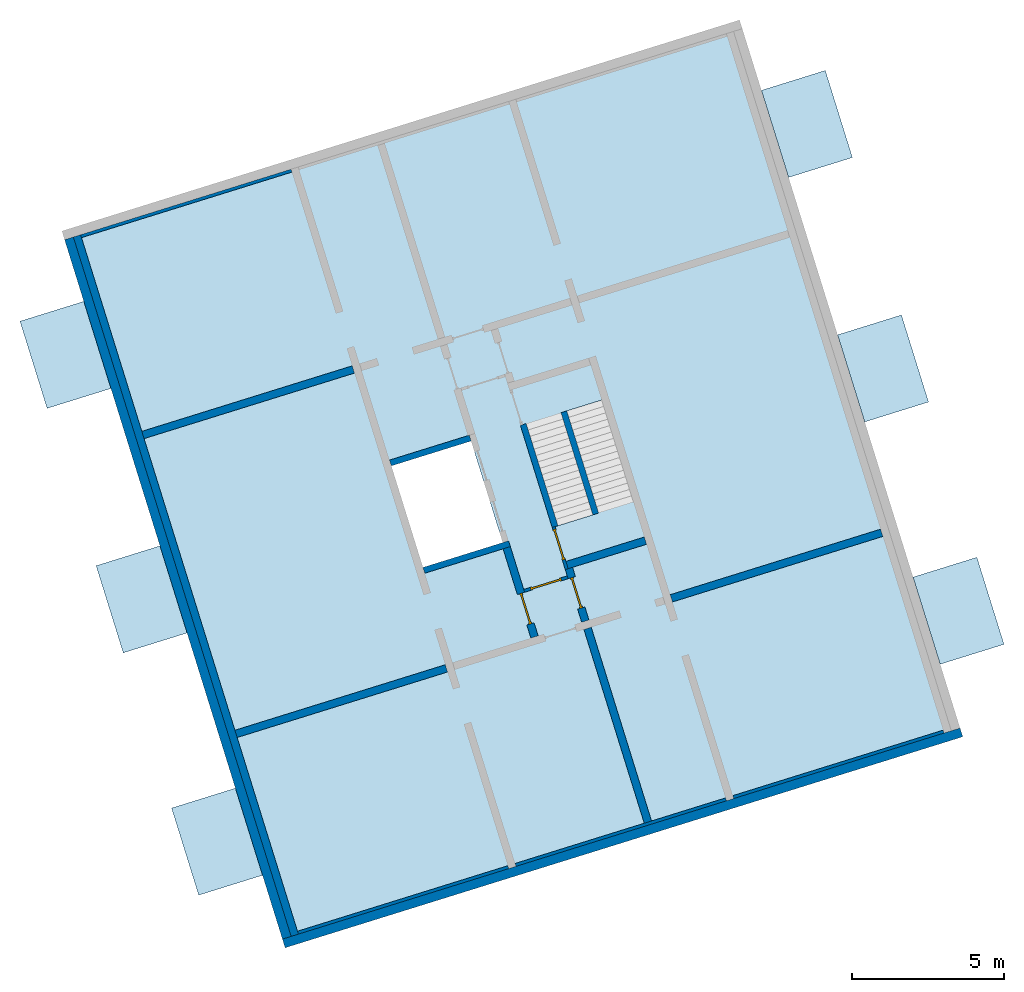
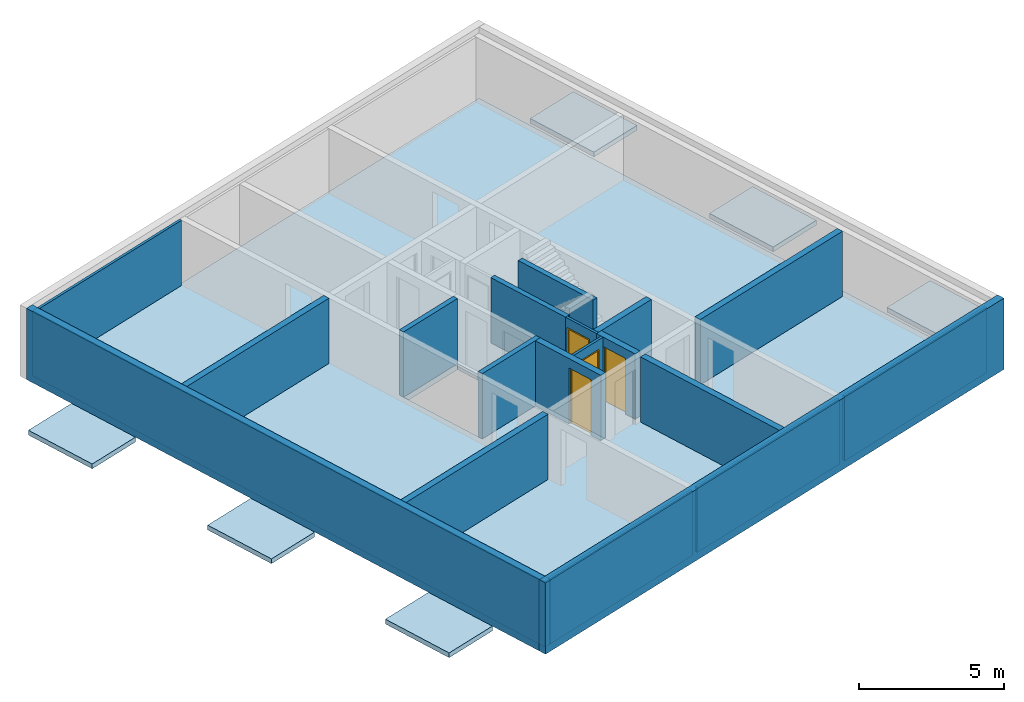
# One storey, part 1 of 4: 20 walls, 7 slabs, 4 doors, 6 openings.
"""IFC4 building model written with IfcOpenShell, lengths in metres."""

import ifcopenshell
import ifcopenshell.guid

model = None  # the IFC model being written
_history = None  # IfcOwnerHistory: only IFC2X3 demands one
_inside = {}  # id of a spatial element -> (the spatial element, [elements in it])
_under = {}  # id of a project, library or spatial element -> (it, [spatial elements below it])
_declared = {}  # id of a project -> (the project, [libraries it declares])
_typed = {}  # id of a type object -> (the type object, [elements of that type])
_made_of = {}  # id of a material, layer set ... -> (it, [elements and type objects made of it])


def new_model(schema):
    """Start an empty IFC model of exactly this schema.

    Asked for "IFC4X3", IfcOpenShell would pick the latest addendum, in which some entities
    have other attributes; the version numbers below select the first issue.
    IFC2X3 requires an IfcOwnerHistory on every rooted entity: one is made here for all.
    """
    global model, _history
    if schema == "IFC4X3":
        model = ifcopenshell.file(schema_version=(4, 3, 0, 0))
    else:
        model = ifcopenshell.file(schema=schema)
    _inside.clear()
    _under.clear()
    _declared.clear()
    _typed.clear()
    _made_of.clear()
    _history = None
    if model.schema == "IFC2X3":
        org = make("IfcOrganization", Name="unknown")
        user = make(
            "IfcPersonAndOrganization",
            ThePerson=make("IfcPerson", FamilyName="unknown"),
            TheOrganization=org,
        )
        app = make(
            "IfcApplication",
            ApplicationDeveloper=org,
            Version="unknown",
            ApplicationFullName="unknown",
            ApplicationIdentifier="unknown",
        )
        _history = make(
            "IfcOwnerHistory",
            OwningUser=user,
            OwningApplication=app,
            ChangeAction="ADDED",
            CreationDate=0,
        )
    return model


def make(cls, **values):
    """One entity of the class cls with the attributes given. An attribute that is None is left unset."""
    return model.create_entity(
        cls, **{name: value for name, value in values.items() if value is not None}
    )


def entity(cls, *values):
    """Any entity or typed value of the class cls, its attributes in the order of the schema. None: left unset."""
    e = model.create_entity(cls)
    for i, value in enumerate(values):
        if value is not None:
            e[i] = value
    return e


def rooted(cls, **values):
    """An entity with a GlobalId (a new one), such as an element, a storey or a relation."""
    return make(cls, GlobalId=ifcopenshell.guid.new(), OwnerHistory=_history, **values)


def si_unit(unit_type, name, prefix=None):
    """IfcSIUnit, for example si_unit("LENGTHUNIT", "METRE", prefix="MILLI")."""
    return make("IfcSIUnit", UnitType=unit_type, Prefix=prefix, Name=name)


def converted_unit(unit_type, name, factor, base, dimensions=None, offset=None):
    """IfcConversionBasedUnit, such as the inch: factor (a typed value) times the base unit."""
    return make(
        "IfcConversionBasedUnit"
        if offset is None
        else "IfcConversionBasedUnitWithOffset",
        ConversionOffset=offset,
        Dimensions=None
        if dimensions is None
        else entity("IfcDimensionalExponents", *dimensions),
        UnitType=unit_type,
        Name=name,
        ConversionFactor=make(
            "IfcMeasureWithUnit", ValueComponent=factor, UnitComponent=base
        ),
    )


def assignment(units):
    """IfcUnitAssignment: the units of a project."""
    return None if units is None else make("IfcUnitAssignment", Units=units)


def point(xyz):
    """IfcCartesianPoint."""
    return None if xyz is None else make("IfcCartesianPoint", Coordinates=xyz)


def direction(xyz):
    """IfcDirection."""
    return None if xyz is None else make("IfcDirection", DirectionRatios=xyz)


def frame(location, z_axis=None, x_axis=None):
    """IfcAxis2Placement3D, a coordinate frame: its origin and axes. An axis left out is left unset."""
    return make(
        "IfcAxis2Placement3D",
        Location=point(location),
        Axis=direction(z_axis),
        RefDirection=direction(x_axis),
    )


def origin():
    """The frame at (0, 0, 0) with its axes left unset."""
    return frame((0.0, 0.0, 0.0))


def place(relative_to, where):
    """IfcLocalPlacement: puts the frame where relative to a parent placement (None: the world)."""
    return make(
        "IfcLocalPlacement", PlacementRelTo=relative_to, RelativePlacement=where
    )


def context(
    kind, dimensions, precision=None, world=None, true_north=None, identifier=None
):
    """IfcGeometricRepresentationContext, for example the 3D "Model" context."""
    return make(
        "IfcGeometricRepresentationContext",
        ContextIdentifier=identifier,
        ContextType=kind,
        CoordinateSpaceDimension=dimensions,
        Precision=precision,
        WorldCoordinateSystem=world,
        TrueNorth=true_north,
    )


def subcontext(parent, identifier, kind, view, scale=None):
    """IfcGeometricRepresentationSubContext, for example "Body" below "Model"."""
    return make(
        "IfcGeometricRepresentationSubContext",
        ContextIdentifier=identifier,
        ContextType=kind,
        ParentContext=parent,
        TargetScale=scale,
        TargetView=view,
    )


def project(units=None, contexts=None):
    """IfcProject with its units and contexts."""
    return rooted(
        "IfcProject",
        Name="project",
        RepresentationContexts=contexts,
        UnitsInContext=assignment(units),
    )


def spatial(cls, under=None, at=None, **own):
    """A site, building, storey or space (cls), placed at a placement, below another one or the project."""
    s = rooted(cls, ObjectPlacement=at, **own)
    if under is not None:
        _under.setdefault(under.id(), (under, []))[1].append(s)
    return s


def point_list(points):
    """IfcCartesianPointList2D or 3D."""
    cls = (
        "IfcCartesianPointList2D" if len(points[0]) == 2 else "IfcCartesianPointList3D"
    )
    return make(cls, CoordList=points)


def indexed_curve(points, segments=None, self_intersect=None):
    """IfcIndexedPolyCurve: lines and arcs through numbered points (the first is 1)."""
    return make(
        "IfcIndexedPolyCurve",
        Points=point_list(points),
        Segments=segments,
        SelfIntersect=self_intersect,
    )


def outline(outer, holes=None, kind="AREA"):
    """IfcArbitraryClosedProfileDef: a profile drawn as a closed curve; with holes, ...WithVoids."""
    if holes is None:
        return make("IfcArbitraryClosedProfileDef", ProfileType=kind, OuterCurve=outer)
    return make(
        "IfcArbitraryProfileDefWithVoids",
        ProfileType=kind,
        OuterCurve=outer,
        InnerCurves=holes,
    )


def extrude(swept, where, along, depth):
    """IfcExtrudedAreaSolid: the profile swept, set in the frame where, extruded along a direction by depth."""
    return make(
        "IfcExtrudedAreaSolid",
        SweptArea=swept,
        Position=where,
        ExtrudedDirection=direction(along),
        Depth=depth,
    )


def polygons(points, faces, closed=None, point_numbers=None):
    """IfcPolygonalFaceSet: a face is its outer loop, then its inner loops; points numbered from 1."""
    made = []
    for loops in faces:
        if len(loops) == 1:
            made.append(make("IfcIndexedPolygonalFace", CoordIndex=loops[0]))
        else:
            made.append(
                make(
                    "IfcIndexedPolygonalFaceWithVoids",
                    CoordIndex=loops[0],
                    InnerCoordIndices=loops[1:],
                )
            )
    return make(
        "IfcPolygonalFaceSet",
        Coordinates=point_list(points),
        Closed=closed,
        Faces=made,
        PnIndex=point_numbers,
    )


def shape(context_of_items, identifier, shape_type, items):
    """IfcShapeRepresentation: the items that make up one representation, for example the "Body"."""
    return make(
        "IfcShapeRepresentation",
        ContextOfItems=context_of_items,
        RepresentationIdentifier=identifier,
        RepresentationType=shape_type,
        Items=items,
    )


def source(mapping_origin, context_of_items, identifier, shape_type, items):
    """IfcRepresentationMap: a shape defined once, which mapped items show again and again."""
    return make(
        "IfcRepresentationMap",
        MappingOrigin=mapping_origin,
        MappedRepresentation=shape(context_of_items, identifier, shape_type, items),
    )


def transform(
    local_origin,
    x_axis=None,
    y_axis=None,
    z_axis=None,
    scale=None,
    scale2=None,
    scale3=None,
    uniform=True,
):
    """IfcCartesianTransformationOperator3D, or its non-uniform kind. x_axis, y_axis, z_axis: its Axis1, 2, 3."""
    if uniform:
        return make(
            "IfcCartesianTransformationOperator3D",
            Axis1=direction(x_axis),
            Axis2=direction(y_axis),
            LocalOrigin=point(local_origin),
            Scale=scale,
            Axis3=direction(z_axis),
        )
    return make(
        "IfcCartesianTransformationOperator3DnonUniform",
        Axis1=direction(x_axis),
        Axis2=direction(y_axis),
        LocalOrigin=point(local_origin),
        Scale=scale,
        Axis3=direction(z_axis),
        Scale2=scale2,
        Scale3=scale3,
    )


def mapped(mapping_source, mapping_target):
    """IfcMappedItem: shows the shape of a source again, moved by a transform."""
    return make(
        "IfcMappedItem", MappingSource=mapping_source, MappingTarget=mapping_target
    )


def material(Name=None, Category=None):
    """IfcMaterial."""
    return make("IfcMaterial", Name=Name, Category=Category)


def constituent(of_material, Name=None, Category=None, fraction=None):
    """IfcMaterialConstituent: one of the materials an element consists of."""
    return make(
        "IfcMaterialConstituent",
        Name=Name,
        Material=of_material,
        Fraction=fraction,
        Category=Category,
    )


def constituent_set(constituents=None, Name=None):
    """IfcMaterialConstituentSet."""
    return make(
        "IfcMaterialConstituentSet", Name=Name, MaterialConstituents=constituents
    )


def made_of(thing, what):
    """Note that an element or type object is made of a material, layer set ...; save() writes the relation."""
    if what is not None:
        _made_of.setdefault(what.id(), (what, []))[1].append(thing)
    return thing


def type_object(cls, material=None, **own):
    """A type object (cls), such as IfcWallType, which elements share."""
    return made_of(rooted(cls, **own), material)


def type_shapes(of_type, sources):
    """Give a type object the sources (RepresentationMaps) that its elements show as mapped items."""
    of_type.RepresentationMaps = sources


def element(
    cls,
    number,
    at=None,
    inside=None,
    cuts=None,
    type_object=None,
    material=None,
    context=None,
    identifier="Body",
    shape_type=None,
    held_by="IfcProductDefinitionShape",
    body=None,
    shapes=None,
    **own,
):
    """One element of the class cls, such as IfcWall. Its Tag is "e" and its number.

    at: its placement. inside: the storey or other place that contains it. cuts: it is an
    opening in that element (IfcRelVoidsElement). A single representation is given by context,
    identifier, shape_type and body (its items); several are given by shapes. held_by: the class
    of the entity that holds the representations. save() writes the other relations.
    """
    e = rooted(cls, Tag="e%d" % number, ObjectPlacement=at, **own)
    if body is not None:
        shapes = [shape(context, identifier, shape_type, body)]
    if shapes is not None:
        e.Representation = make(held_by, Representations=shapes)
    if inside is not None:
        _inside.setdefault(inside.id(), (inside, []))[1].append(e)
    if cuts is not None:
        rooted(
            "IfcRelVoidsElement", RelatingBuildingElement=cuts, RelatedOpeningElement=e
        )
    if type_object is not None:
        _typed.setdefault(type_object.id(), (type_object, []))[1].append(e)
    return made_of(e, material)


def fill(opening, filler):
    """IfcRelFillsElement: the door or window that sits in an opening."""
    return rooted(
        "IfcRelFillsElement",
        RelatingOpeningElement=opening,
        RelatedBuildingElement=filler,
    )


def aggregate(whole, parts):
    """IfcRelAggregates: a whole, such as a stair, and the parts it consists of."""
    return rooted("IfcRelAggregates", RelatingObject=whole, RelatedObjects=parts)


def save(model, path):
    """Write the relations noted so far, then the file.

    IfcRelAggregates (storeys below a building ...), IfcRelContainedInSpatialStructure (elements
    in a storey), IfcRelDefinesByType, IfcRelAssociatesMaterial and IfcRelDeclares: one each for
    every whole, place, type object, material and project.
    """
    for whole, parts in _under.values():
        aggregate(whole, parts)
    for where, things in _inside.values():
        rooted(
            "IfcRelContainedInSpatialStructure",
            RelatedElements=things,
            RelatingStructure=where,
        )
    for kind, things in _typed.values():
        rooted("IfcRelDefinesByType", RelatedObjects=things, RelatingType=kind)
    for what, things in _made_of.values():
        rooted("IfcRelAssociatesMaterial", RelatedObjects=things, RelatingMaterial=what)
    for by, libraries in _declared.values():
        rooted("IfcRelDeclares", RelatingContext=by, RelatedDefinitions=libraries)
    model.write(path)


model = new_model("IFC4")

# Units and contexts
model_context = context("Model", 3, precision=1e-05, world=origin(), true_north=direction((6.12323399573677e-17, 1.0)))
body_context = subcontext(model_context, "Body", "Model", "MODEL_VIEW")
ifc_project = project(units=[si_unit("LENGTHUNIT", "METRE"), si_unit("AREAUNIT", "SQUARE_METRE"), si_unit("VOLUMEUNIT", "CUBIC_METRE"), converted_unit("PLANEANGLEUNIT", "DEGREE", entity("IfcPlaneAngleMeasure", 0.0174532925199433), si_unit("PLANEANGLEUNIT", "RADIAN"), dimensions=[0, 0, 0, 0, 0, 0, 0])], contexts=[model_context])

# Site, building, storey
site_placement = place(None, frame((13.1347999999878, 11.9886000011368, 0.0), z_axis=(0.0, 0.0, 1.0), x_axis=(0.954770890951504, 0.297342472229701, 0.0)))
site = spatial("IfcSite", under=ifc_project, at=site_placement, Name="Schiehaven", CompositionType="ELEMENT")
building_placement = place(site_placement, origin())
building = spatial("IfcBuilding", under=site, at=building_placement, Name="VORM huis", CompositionType="ELEMENT")
storey_placement = place(building_placement, frame((0.0, 0.0, 21.9)))
storey = spatial("IfcBuildingStorey", under=building, at=storey_placement, Name="07 zevende verdieping", CompositionType="ELEMENT", Elevation=21.9)

# Slab, openings
ifc_material_1 = material(Name="beton_gewapend_ihw", Category="Miscellaneous")
slab_type_1 = type_object("IfcSlabType", Name="Floor:28_FL_skelet_vloer 250mm", PredefinedType="FLOOR", material=ifc_material_1)
slab_1_placement = place(storey_placement, origin())
slab_1 = element("IfcSlab", 1, at=slab_1_placement, inside=storey, type_object=slab_type_1, material=ifc_material_1, Name="Constructieve vloer", ObjectType="Vloer", PredefinedType="FLOOR", context=body_context, shape_type="SweptSolid", body=[
    extrude(outline(indexed_curve([(-12.05, -11.375), (12.05, -11.375), (12.05, 11.375), (-12.05, 11.375), (-12.05, -11.375)], self_intersect=False), holes=[indexed_curve([(-1.75000000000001, -3.62500000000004), (-1.75000000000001, -0.875000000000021), (1.74999999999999, -0.875000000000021), (1.74999999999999, -3.62500000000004), (-1.75000000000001, -3.62500000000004)], self_intersect=False), indexed_curve([(1.76, 2.22499999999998), (1.76, 1.02499999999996), (-1.54, 1.02499999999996), (-1.54, 2.22499999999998), (1.76, 2.22499999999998)], self_intersect=False), indexed_curve([(-1.75999999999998, 3.62499999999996), (1.54, 3.62499999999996), (1.54, 2.42499999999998), (-1.75999999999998, 2.42499999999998), (-1.75999999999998, 3.62499999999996)], self_intersect=False)]), frame((16.2500000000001, 17.05, -0.249999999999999), z_axis=(0.0, 0.0, 1.0), x_axis=(0.0, -1.0, 0.0)), (0.0, 0.0, 1.0), 0.249999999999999),
])
opening_1_placement = place(slab_1_placement, origin())
element("IfcOpeningElement", 2, at=opening_1_placement, cuts=slab_1, Name="Constructieve vloer", PredefinedType="OPENING", context=body_context, shape_type="SweptSolid", body=[
    extrude(outline(indexed_curve([(-1.74999999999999, -1.37500000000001), (1.75, -1.37500000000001), (1.75, 1.37500000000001), (-1.75, 1.37500000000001), (-1.74999999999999, -1.37500000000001)], self_intersect=False)), frame((14.0, 17.05, -0.249999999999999), z_axis=(0.0, 0.0, 1.0), x_axis=(0.0, -1.0, 0.0)), (0.0, 0.0, 1.0), 0.249999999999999),
])
opening_2_placement = place(slab_1_placement, origin())
element("IfcOpeningElement", 3, at=opening_2_placement, cuts=slab_1, Name="Constructieve vloer", PredefinedType="OPENING", context=body_context, shape_type="SweptSolid", body=[
    extrude(outline(indexed_curve([(-1.65, -0.600000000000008), (1.65, -0.600000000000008), (1.65, 0.600000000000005), (-1.65, 0.600000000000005), (-1.65, -0.600000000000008)], self_intersect=False)), frame((17.8750000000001, 16.94, -0.249999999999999), z_axis=(0.0, 0.0, 1.0), x_axis=(0.0, 1.0, 0.0)), (0.0, 0.0, 1.0), 0.249999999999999),
])

# Slabs
ifc_material_2 = material(Name="beton_gewapend_prefab-element", Category="Miscellaneous")
slab_type_2 = type_object("IfcSlabType", Name="Floor:23_FL_skelet_balkon 200mm", PredefinedType="FLOOR", material=ifc_material_2)
slab_2_placement = place(storey_placement, origin())
element("IfcSlab", 4, at=slab_2_placement, inside=storey, type_object=slab_type_2, material=ifc_material_2, Name="Balkonvloer", ObjectType="Vloer", PredefinedType="FLOOR", context=body_context, shape_type="SweptSolid", body=[
    extrude(outline(indexed_curve([(-1.5, -1.1), (1.5, -1.1), (1.5, 1.09999999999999), (-1.5, 1.09999999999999), (-1.5, -1.1)], self_intersect=False)), frame((29.0250000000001, 25.475, 0.0), z_axis=(0.0, 0.0, -1.0), x_axis=(0.0, 1.0, 0.0)), (0.0, 0.0, 1.0), 0.199999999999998),
])
slab_3_placement = place(storey_placement, origin())
element("IfcSlab", 5, at=slab_3_placement, inside=storey, type_object=slab_type_2, material=ifc_material_2, Name="Balkonvloer", ObjectType="Vloer", PredefinedType="FLOOR", context=body_context, shape_type="SweptSolid", body=[
    extrude(outline(indexed_curve([(-1.5, -1.1), (1.5, -1.1), (1.5, 1.1), (-1.5, 1.1), (-1.5, -1.1)], self_intersect=False)), frame((29.0250000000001, 8.70000000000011, 0.0), z_axis=(0.0, 0.0, -1.0), x_axis=(0.0, 1.0, 0.0)), (0.0, 0.0, 1.0), 0.199999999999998),
])
slab_4_placement = place(storey_placement, origin())
element("IfcSlab", 6, at=slab_4_placement, inside=storey, type_object=slab_type_2, material=ifc_material_2, Name="Balkonvloer", ObjectType="Vloer", PredefinedType="FLOOR", context=body_context, shape_type="SweptSolid", body=[
    extrude(outline(indexed_curve([(-1.5, -1.1), (1.5, -1.1), (1.5, 1.1), (-1.5, 1.1), (-1.5, -1.1)], self_intersect=False)), frame((29.0250000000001, 17.05, 0.0), z_axis=(0.0, 0.0, -1.0), x_axis=(0.0, 1.0, 0.0)), (0.0, 0.0, 1.0), 0.199999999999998),
])
slab_5_placement = place(storey_placement, origin())
element("IfcSlab", 7, at=slab_5_placement, inside=storey, type_object=slab_type_2, material=ifc_material_2, Name="Balkonvloer", ObjectType="Vloer", PredefinedType="FLOOR", context=body_context, shape_type="SweptSolid", body=[
    extrude(outline(indexed_curve([(-1.49999999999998, -1.1), (1.50000000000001, -1.1), (1.49999999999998, 1.1), (-1.50000000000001, 1.1), (-1.49999999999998, -1.1)], self_intersect=False)), frame((3.47500000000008, 25.4750000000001, 0.0), z_axis=(0.0, 0.0, -1.0), x_axis=(0.0, 1.0, 0.0)), (0.0, 0.0, 1.0), 0.199999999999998),
])
slab_6_placement = place(storey_placement, origin())
element("IfcSlab", 8, at=slab_6_placement, inside=storey, type_object=slab_type_2, material=ifc_material_2, Name="Balkonvloer", ObjectType="Vloer", PredefinedType="FLOOR", context=body_context, shape_type="SweptSolid", body=[
    extrude(outline(indexed_curve([(-1.49999999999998, -1.1), (1.50000000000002, -1.1), (1.49999999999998, 1.1), (-1.50000000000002, 1.1), (-1.49999999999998, -1.1)], self_intersect=False)), frame((3.47499999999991, 8.70000000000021, 0.0), z_axis=(0.0, 0.0, -1.0), x_axis=(0.0, 1.0, 0.0)), (0.0, 0.0, 1.0), 0.199999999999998),
])
slab_7_placement = place(storey_placement, origin())
element("IfcSlab", 9, at=slab_7_placement, inside=storey, type_object=slab_type_2, material=ifc_material_2, Name="Balkonvloer", ObjectType="Vloer", PredefinedType="FLOOR", context=body_context, shape_type="SweptSolid", body=[
    extrude(outline(indexed_curve([(-1.49999999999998, -1.1), (1.50000000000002, -1.1), (1.49999999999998, 1.1), (-1.50000000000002, 1.1), (-1.49999999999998, -1.1)], self_intersect=False)), frame((3.47499999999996, 17.0500000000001, 0.0), z_axis=(0.0, 0.0, -1.0), x_axis=(0.0, 1.0, 0.0)), (0.0, 0.0, 1.0), 0.199999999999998),
])

# Walls
wall_type_1 = type_object("IfcWallType", Name="Basic Wall:28_WA_skelet_wand 250mm_gen", PredefinedType="STANDARD")
wall_1_placement = place(storey_placement, frame((5.0, 5.0, 0.0), z_axis=(0.0, 0.0, 1.0), x_axis=(0.0, 1.0, 0.0)))
element("IfcWall", 10, at=wall_1_placement, inside=storey, type_object=wall_type_1, material=ifc_material_1, Name="Constructieve wand", ObjectType="Wand", PredefinedType="NOTDEFINED", context=body_context, shape_type="SweptSolid", body=[
    extrude(outline(indexed_curve([(24.1, 0.125), (4.21737840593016e-16, 0.125), (-4.21737840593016e-16, -0.125), (24.1, -0.125), (24.1, 0.125)], self_intersect=False)), origin(), (0.0, 0.0, 1.0), 2.75),
])
ifc_material_3 = material(Name="ntb_ntb_ntb", Category="Miscellaneous")
wall_type_2 = type_object("IfcWallType", Name="Basic Wall:21_WA_gevel_binnenspouwwand 100mm_gen", PredefinedType="STANDARD")
wall_2_placement = place(storey_placement, frame((5.12500000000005, 5.05000000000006, 0.0)))
element("IfcWall", 11, at=wall_2_placement, inside=storey, type_object=wall_type_2, material=ifc_material_3, Name="Binnenspouwblad", ObjectType="Wand", PredefinedType="NOTDEFINED", context=body_context, shape_type="SweptSolid", body=[
    extrude(outline(indexed_curve([(7.24999999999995, 0.0500000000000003), (-1.84844170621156e-16, 0.0500000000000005), (1.84844170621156e-16, -0.0500000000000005), (7.24999999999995, -0.0500000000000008), (7.24999999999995, 0.0500000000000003)], self_intersect=False)), origin(), (0.0, 0.0, 1.0), 2.75),
])
wall_3_placement = place(storey_placement, frame((19.875, 5.04999999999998, 0.0), z_axis=(0.0, 0.0, 1.0), x_axis=(-1.0, 0.0, 0.0)))
element("IfcWall", 12, at=wall_3_placement, inside=storey, type_object=wall_type_2, material=ifc_material_3, Name="Binnenspouwblad", ObjectType="Wand", PredefinedType="NOTDEFINED", context=body_context, shape_type="SweptSolid", body=[
    extrude(outline(indexed_curve([(7.24999999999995, 0.050000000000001), (-3.3903742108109e-16, 0.0500000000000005), (3.3903742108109e-16, -0.0500000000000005), (7.24999999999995, -0.0500000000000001), (7.24999999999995, 0.050000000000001)], self_intersect=False)), origin(), (0.0, 0.0, 1.0), 2.75),
])
wall_4_placement = place(storey_placement, frame((20.1250000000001, 5.04999999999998, 0.0)))
element("IfcWall", 13, at=wall_4_placement, inside=storey, type_object=wall_type_2, material=ifc_material_3, Name="Binnenspouwblad", ObjectType="Wand", PredefinedType="NOTDEFINED", context=body_context, shape_type="SweptSolid", body=[
    extrude(outline(indexed_curve([(7.24999999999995, 0.0499999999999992), (-1.84844170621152e-16, 0.0499999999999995), (1.84844170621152e-16, -0.0499999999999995), (7.24999999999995, -0.0499999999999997), (7.24999999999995, 0.0499999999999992)], self_intersect=False)), origin(), (0.0, 0.0, 1.0), 2.75),
])
wall_5_placement = place(storey_placement, frame((5.12500000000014, 29.0500000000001, 0.0)))
element("IfcWall", 14, at=wall_5_placement, inside=storey, type_object=wall_type_2, material=ifc_material_3, Name="Binnenspouwblad", ObjectType="Wand", PredefinedType="NOTDEFINED", context=body_context, shape_type="SweptSolid", body=[
    extrude(outline(indexed_curve([(7.24999999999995, 0.0500000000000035), (-1.62265042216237e-16, 0.0500000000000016), (1.62265042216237e-16, -0.0500000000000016), (7.24999999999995, -0.0499999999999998), (7.24999999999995, 0.0500000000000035)], self_intersect=False)), origin(), (0.0, 0.0, 1.0), 2.75),
])
wall_type_3 = type_object("IfcWallType", Name="Basic Wall: 300mm_gen", PredefinedType="STANDARD")
wall_6_placement = place(storey_placement, frame((4.72500000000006, 5.0, 0.0), z_axis=(0.0, 0.0, 1.0), x_axis=(0.0, 1.0, 0.0)))
element("IfcWall", 15, at=wall_6_placement, inside=storey, type_object=wall_type_3, material=ifc_material_3, Name="Gevelwand", ObjectType="Wand", PredefinedType="NOTDEFINED", context=body_context, shape_type="SweptSolid", body=[
    extrude(outline(indexed_curve([(24.1, 0.15), (-3.8304924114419e-16, 0.15), (-6.99817888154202e-16, -0.15), (24.1, -0.15), (24.1, 0.15)], self_intersect=False)), origin(), (0.0, 0.0, 1.0), 3.0),
])
wall_7_placement = place(storey_placement, frame((27.9250000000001, 4.85000000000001, 0.0), z_axis=(0.0, 0.0, 1.0), x_axis=(-1.0, 0.0, 0.0)))
element("IfcWall", 16, at=wall_7_placement, inside=storey, type_object=wall_type_3, material=ifc_material_3, Name="Gevelwand", ObjectType="Wand", PredefinedType="NOTDEFINED", context=body_context, shape_type="SweptSolid", body=[
    extrude(outline(indexed_curve([(23.35, 0.15), (-3.8304924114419e-16, 0.15), (3.83049241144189e-16, -0.149999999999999), (23.35, -0.149999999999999), (23.35, 0.15)], self_intersect=False)), origin(), (0.0, 0.0, 1.0), 3.0),
])
wall_type_4 = type_object("IfcWallType", Name="Basic Wall:28_WA_skelet_wand 200mm_gen", PredefinedType="STANDARD")
wall_8_placement = place(storey_placement, frame((12.6250000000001, 15.2, 0.0)))
element("IfcWall", 17, at=wall_8_placement, inside=storey, type_object=wall_type_4, material=ifc_material_2, Name="Constructieve wand", ObjectType="Wand", PredefinedType="NOTDEFINED", context=body_context, shape_type="SweptSolid", body=[
    extrude(outline(indexed_curve([(2.95, 0.100000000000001), (-3.51397851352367e-16, 0.100000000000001), (3.51397851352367e-16, -0.100000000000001), (2.95, -0.100000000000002), (2.95, 0.100000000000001)], self_intersect=False)), origin(), (0.0, 0.0, 1.0), 2.75),
])
wall_9_placement = place(storey_placement, frame((15.3750000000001, 18.9, 0.0), z_axis=(0.0, 0.0, 1.0), x_axis=(-1.0, 0.0, 0.0)))
element("IfcWall", 18, at=wall_9_placement, inside=storey, type_object=wall_type_4, material=ifc_material_2, Name="Constructieve wand", ObjectType="Wand", PredefinedType="NOTDEFINED", context=body_context, shape_type="SweptSolid", body=[
    extrude(outline(indexed_curve([(2.75, 0.100000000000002), (-2.05391259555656e-16, 0.100000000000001), (2.05391259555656e-16, -0.100000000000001), (2.75, -0.0999999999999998), (2.75, 0.100000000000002)], self_intersect=False)), origin(), (0.0, 0.0, 1.0), 2.75),
])
wall_10_placement = place(storey_placement, frame((17.1750000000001, 15.29, 0.0), z_axis=(0.0, 0.0, 1.0), x_axis=(0.0, 1.0, 0.0)))
element("IfcWall", 19, at=wall_10_placement, inside=storey, type_object=wall_type_4, material=ifc_material_2, Name="Constructieve wand", ObjectType="Wand", PredefinedType="NOTDEFINED", context=body_context, shape_type="SweptSolid", body=[
    extrude(outline(indexed_curve([(3.52, 0.0999999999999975), (-5.13023966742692e-16, 0.0999999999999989), (5.13023966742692e-16, -0.0999999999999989), (3.52, -0.1), (3.52, 0.0999999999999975)], self_intersect=False)), origin(), (0.0, 0.0, 1.0), 2.75),
])
wall_11_placement = place(storey_placement, frame((18.5750000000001, 15.29, 0.0), z_axis=(0.0, 0.0, 1.0), x_axis=(0.0, 1.0, 0.0)))
element("IfcWall", 20, at=wall_11_placement, inside=storey, type_object=wall_type_4, material=ifc_material_2, Name="Constructieve wand", ObjectType="Wand", PredefinedType="NOTDEFINED", context=body_context, shape_type="SweptSolid", body=[
    extrude(outline(indexed_curve([(3.52, 0.0999999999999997), (-6.36077049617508e-16, 0.0999999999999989), (6.36077049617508e-16, -0.0999999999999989), (3.52, -0.0999999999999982), (3.52, 0.0999999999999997)], self_intersect=False)), origin(), (0.0, 0.0, 1.0), 2.75),
])
wall_type_5 = type_object("IfcWallType", Name="Basic Wall:22_WA_afbouw_binnenwand 250mm_gen", PredefinedType="STANDARD")
wall_12_placement = place(storey_placement, frame((12.3750000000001, 22.2, 0.0), z_axis=(0.0, 0.0, 1.0), x_axis=(-1.0, 0.0, 0.0)))
element("IfcWall", 21, at=wall_12_placement, inside=storey, type_object=wall_type_5, material=ifc_material_3, Name="Binnenwand", ObjectType="Wand", PredefinedType="NOTDEFINED", context=body_context, shape_type="SweptSolid", body=[
    extrude(outline(indexed_curve([(7.24999999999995, 0.125000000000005), (-4.9649652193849e-16, 0.125000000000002), (4.9649652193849e-16, -0.125000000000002), (7.24999999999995, -0.124999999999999), (7.24999999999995, 0.125000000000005)], self_intersect=False)), origin(), (0.0, 0.0, 1.0), 2.75),
])
wall_13_placement = place(storey_placement, frame((20.125, 11.9, 0.0)))
element("IfcWall", 22, at=wall_13_placement, inside=storey, type_object=wall_type_5, material=ifc_material_3, Name="Binnenwand", ObjectType="Wand", PredefinedType="NOTDEFINED", context=body_context, shape_type="SweptSolid", body=[
    extrude(outline(indexed_curve([(7.24999999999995, 0.125), (-1.92055213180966e-16, 0.125), (1.92055213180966e-16, -0.125), (7.24999999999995, -0.124999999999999), (7.24999999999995, 0.125)], self_intersect=False)), origin(), (0.0, 0.0, 1.0), 2.75),
])
wall_14_placement = place(storey_placement, frame((17.2000000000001, 11.775, 0.0), z_axis=(0.0, 0.0, 1.0), x_axis=(0.0, -1.0, 0.0)))
element("IfcWall", 23, at=wall_14_placement, inside=storey, type_object=wall_type_5, material=ifc_material_3, Name="Binnenwand", ObjectType="Wand", PredefinedType="NOTDEFINED", context=body_context, shape_type="SweptSolid", body=[
    extrude(outline(indexed_curve([(6.67500000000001, 0.125000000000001), (-2.98792823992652e-16, 0.125), (2.98792823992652e-16, -0.125), (6.67500000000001, -0.124999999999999), (6.67500000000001, 0.125000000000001)], self_intersect=False)), origin(), (0.0, 0.0, 1.0), 2.75),
])
wall_15_placement = place(storey_placement, frame((12.3750000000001, 11.9, 0.0), z_axis=(0.0, 0.0, 1.0), x_axis=(-1.0, 0.0, 0.0)))
element("IfcWall", 24, at=wall_15_placement, inside=storey, type_object=wall_type_5, material=ifc_material_3, Name="Binnenwand", ObjectType="Wand", PredefinedType="NOTDEFINED", context=body_context, shape_type="SweptSolid", body=[
    extrude(outline(indexed_curve([(7.24999999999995, 0.125), (-1.96773443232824e-16, 0.125), (1.96773443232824e-16, -0.125), (7.24999999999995, -0.124999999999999), (7.24999999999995, 0.125)], self_intersect=False)), origin(), (0.0, 0.0, 1.0), 2.75),
])

# Wall, opening, door
wall_16_placement = place(storey_placement, frame((17.2000000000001, 13.84, 0.0), z_axis=(0.0, 0.0, 1.0), x_axis=(0.0, -1.0, 0.0)))
wall_16 = element("IfcWall", 25, at=wall_16_placement, inside=storey, type_object=wall_type_5, material=ifc_material_3, Name="Binnenwand", ObjectType="Wand", PredefinedType="NOTDEFINED", context=body_context, shape_type="Tessellation", body=[
    polygons([(-2.16573425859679e-15, -0.125, 0.0), (0.215000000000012, -0.124999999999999, 0.0), (0.315000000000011, -0.124999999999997, 0.0), (0.315000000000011, -0.124999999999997, 2.34999999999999), (1.36500000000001, -0.124999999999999, 2.34999999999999), (1.36500000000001, -0.124999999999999, 0.0), (1.81499999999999, -0.125000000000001, 0.0), (1.81499999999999, -0.125000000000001, 2.75), (0.315000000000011, -0.124999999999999, 2.75), (0.215000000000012, -0.124999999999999, 2.75), (-2.16573425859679e-15, -0.125, 2.75), (0.315000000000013, 0.125, 2.34999999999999), (0.315000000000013, 0.125, 0.0), (0.0, 0.124999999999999, 0.0), (0.0, 0.124999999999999, 2.75), (1.81499999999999, 0.124999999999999, 2.75), (1.81499999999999, 0.124999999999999, 0.0), (1.36500000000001, 0.125, 0.0), (1.36500000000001, 0.125, 2.34999999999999), (-2.16573425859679e-15, -0.0250000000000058, 0.0), (-2.16573425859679e-15, -0.0250000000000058, 2.75)], [[[1, 2, 3, 4, 5, 6, 7, 8, 9, 10, 11]], [[12, 13, 14, 15, 16, 17, 18, 19]], [[14, 13, 3, 2, 1, 20]], [[8, 7, 17, 16]], [[11, 10, 9, 8, 16, 15, 21]], [[6, 5, 19, 18]], [[4, 3, 13, 12]], [[5, 4, 12, 19]], [[1, 11, 21, 15, 14, 20]], [[18, 17, 7, 6]]], closed=True),
])
opening_3_placement = place(wall_16_placement, frame((1.36500000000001, 0.125000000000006, 0.0)))
opening_3 = element("IfcOpeningElement", 26, at=opening_3_placement, cuts=wall_16, Name="Woningtoegangsdeur", PredefinedType="OPENING", context=body_context, shape_type="SweptSolid", body=[
    extrude(outline(indexed_curve([(2.34999999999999, 1.35358391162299e-15), (2.34999999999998, 1.05), (0.0, 1.05), (2.16573425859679e-15, 1.35358391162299e-15), (2.34999999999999, 1.35358391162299e-15)], self_intersect=False)), frame((0.0, 0.0, 0.0), z_axis=(0.0, -1.0, 0.0), x_axis=(0.0, 0.0, 1.0)), (0.0, 0.0, 1.0), 0.25),
])
ifc_material_4 = material(Name="PD_a_binnenwandopeningen", Category="Miscellaneous")
ifc_constituent_1 = constituent(ifc_material_4, Name="PD_a_binnenwandopeningen", Category="Miscellaneous")
ifc_material_5 = material(Name="metaal_aluminium_ntb", Category="Miscellaneous")
ifc_constituent_2 = constituent(ifc_material_5, Name="metaal_aluminium_ntb", Category="Miscellaneous")
ifc_constituent_set_1 = constituent_set(constituents=[ifc_constituent_1, ifc_constituent_2])
ifc_constituent_3 = constituent(ifc_material_4, Name="PD_a_binnenwandopeningen", Category="Miscellaneous")
ifc_constituent_4 = constituent(ifc_material_5, Name="Panel", Category="Miscellaneous")
ifc_constituent_set_2 = constituent_set(constituents=[ifc_constituent_3, ifc_constituent_4])
door_type_1 = type_object("IfcDoorType", Name="32_DO_binnendeur enkel:woningtoegangsdeur", OperationType="REVOLVING", PredefinedType="DOOR", material=ifc_constituent_set_2)
shared_shape_1 = source(origin(), body_context, "Body", "SweptSolid", [
    extrude(outline(indexed_curve([(0.475, -1.16249999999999), (0.525000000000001, -1.16249999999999), (0.525000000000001, 1.18749999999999), (-0.525000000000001, 1.18749999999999), (-0.525000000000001, -1.16249999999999), (-0.475, -1.16249999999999), (-0.475, 1.13749999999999), (0.475, 1.13749999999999), (0.475, -1.16249999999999)], self_intersect=False)), frame((0.525000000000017, 0.174999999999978, 1.16249999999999), z_axis=(0.0, -1.0, 0.0), x_axis=(1.0, 0.0, 0.0)), (0.0, 0.0, 1.0), 0.1),
    extrude(outline(indexed_curve([(-0.475, -0.025), (0.475, -0.025), (0.475, 0.025), (-0.475, 0.025), (-0.475, -0.025)], self_intersect=False)), frame((0.525000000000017, 0.12499999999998, 0.0)), (0.0, 0.0, 1.0), 2.29999999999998),
])
type_shapes(door_type_1, [shared_shape_1])
door_1_placement = place(opening_3_placement, frame((0.0, 0.0, 0.0), z_axis=(0.0, 0.0, 1.0), x_axis=(-1.0, 0.0, 0.0)))
door_1 = element("IfcDoor", 27, at=door_1_placement, inside=storey, type_object=door_type_1, material=ifc_constituent_set_1, Name="Woningtoegangsdeur", ObjectType="Deur", OperationType="REVOLVING", OverallHeight=2.34999999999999, OverallWidth=1.05, PredefinedType="DOOR", context=body_context, shape_type="MappedRepresentation", body=[
    mapped(shared_shape_1, transform((0.0, 0.0, 0.0), scale=1.0)),
])
fill(opening_3, door_1)

wall_17_placement = place(storey_placement, frame((15.4500000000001, 15.1, 0.0), z_axis=(0.0, 0.0, 1.0), x_axis=(0.0, -1.0, 0.0)))
wall_17 = element("IfcWall", 28, at=wall_17_placement, inside=storey, type_object=wall_type_5, material=ifc_material_3, Name="Binnenwand", ObjectType="Wand", PredefinedType="NOTDEFINED", context=body_context, shape_type="Tessellation", body=[
    polygons([(2.62500000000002, -0.124999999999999, 2.34999999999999), (2.62500000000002, -0.124999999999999, 0.0), (3.07499999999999, -0.124999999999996, 0.0), (3.07499999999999, -0.124999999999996, 2.75), (0.0, -0.125000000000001, 2.75), (0.0, -0.125000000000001, 0.0), (1.57500000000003, -0.124999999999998, 0.0), (1.57500000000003, -0.124999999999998, 2.34999999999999), (3.07499999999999, 0.125000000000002, 0.0), (2.62500000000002, 0.125000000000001, 0.0), (2.62500000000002, 0.125000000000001, 2.34999999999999), (1.57500000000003, 0.125000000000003, 2.34999999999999), (1.57500000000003, 0.125000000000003, 0.0), (1.475, 0.125000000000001, 0.0), (0.0, 0.125000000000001, 0.0), (0.0, 0.125000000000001, 2.75), (1.475, 0.125000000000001, 2.75), (1.575, 0.125000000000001, 2.75), (3.07499999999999, 0.125000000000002, 2.75)], [[[1, 2, 3, 4, 5, 6, 7, 8]], [[9, 10, 11, 12, 13, 14, 15, 16, 17, 18, 19]], [[7, 6, 15, 14, 13]], [[4, 3, 9, 19]], [[5, 4, 19, 18, 17, 16]], [[6, 5, 16, 15]], [[13, 12, 8, 7]], [[11, 10, 2, 1]], [[12, 11, 1, 8]], [[3, 2, 10, 9]]], closed=True),
])
opening_4_placement = place(wall_17_placement, frame((1.57500000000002, -0.124999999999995, 0.0)))
opening_4 = element("IfcOpeningElement", 29, at=opening_4_placement, cuts=wall_17, Name="Woningtoegangsdeur", PredefinedType="OPENING", context=body_context, shape_type="SweptSolid", body=[
    extrude(outline(indexed_curve([(2.34999999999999, 1.35358391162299e-15), (2.34999999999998, 1.05), (0.0, 1.05), (2.16573425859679e-15, 1.35358391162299e-15), (2.34999999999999, 1.35358391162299e-15)], self_intersect=False)), frame((0.0, 0.0, 0.0), z_axis=(0.0, 1.0, 0.0), x_axis=(0.0, 0.0, 1.0)), (0.0, 0.0, 1.0), 0.25),
])
ifc_constituent_5 = constituent(ifc_material_4, Name="PD_a_binnenwandopeningen", Category="Miscellaneous")
ifc_constituent_6 = constituent(ifc_material_5, Name="metaal_aluminium_ntb", Category="Miscellaneous")
ifc_constituent_set_3 = constituent_set(constituents=[ifc_constituent_5, ifc_constituent_6])
door_2_placement = place(opening_4_placement, origin())
door_2 = element("IfcDoor", 30, at=door_2_placement, inside=storey, type_object=door_type_1, material=ifc_constituent_set_3, Name="Woningtoegangsdeur", ObjectType="Deur", OperationType="REVOLVING", OverallHeight=2.34999999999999, OverallWidth=1.05, PredefinedType="DOOR", context=body_context, shape_type="MappedRepresentation", body=[
    mapped(shared_shape_1, transform((0.0, 0.0, 0.0), scale=1.0)),
])
fill(opening_4, door_2)

# Wall
wall_18_placement = place(storey_placement, frame((19.8750000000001, 13.965, 0.0), z_axis=(0.0, 0.0, 1.0), x_axis=(-1.0, 0.0, 0.0)))
element("IfcWall", 31, at=wall_18_placement, inside=storey, type_object=wall_type_5, material=ifc_material_3, Name="Binnenwand", ObjectType="Wand", PredefinedType="NOTDEFINED", context=body_context, shape_type="SweptSolid", body=[
    extrude(outline(indexed_curve([(2.70000000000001, 0.124999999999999), (-3.69797181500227e-16, 0.125), (3.69797181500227e-16, -0.125), (2.70000000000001, -0.125), (2.70000000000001, 0.124999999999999)], self_intersect=False)), origin(), (0.0, 0.0, 1.0), 2.75),
])

# Wall, opening, door
wall_type_6 = type_object("IfcWallType", Name="Basic Wall:22_WA_afbouw_binnenwand 100mm_gen", PredefinedType="STANDARD")
wall_19_placement = place(storey_placement, frame((17.1250000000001, 13.84, 0.0), z_axis=(0.0, 0.0, 1.0), x_axis=(0.0, 1.0, 0.0)))
wall_19 = element("IfcWall", 32, at=wall_19_placement, inside=storey, type_object=wall_type_6, material=ifc_material_3, Name="Binnenwand", ObjectType="Wand", PredefinedType="NOTDEFINED", context=body_context, shape_type="Tessellation", body=[
    polygons([(1.44999999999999, -0.0500000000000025, 0.0), (1.44999999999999, -0.0500000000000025, 2.75), (0.249999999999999, -0.0500000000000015, 2.75), (0.0, -0.0500000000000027, 2.75), (0.0, -0.0500000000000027, 0.0), (0.249999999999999, -0.0500000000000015, 0.0), (0.324999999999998, -0.0500000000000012, 0.0), (0.324999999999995, -0.0500000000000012, 2.34999999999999), (1.375, -0.0500000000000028, 2.34999999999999), (1.375, -0.0500000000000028, 0.0), (1.44999999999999, 0.0499999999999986, 2.75), (1.44999999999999, 0.0499999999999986, 0.0), (1.37499999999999, 0.0499999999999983, 0.0), (1.37499999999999, 0.0500000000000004, 2.34999999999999), (0.324999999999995, 0.0500000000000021, 2.34999999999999), (0.324999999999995, 0.0499999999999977, 0.0), (-2.16573425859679e-15, 0.0500000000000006, 0.0), (-2.16573425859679e-15, 0.0500000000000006, 2.75)], [[[1, 2, 3, 4, 5, 6, 7, 8, 9, 10]], [[11, 12, 13, 14, 15, 16, 17, 18]], [[5, 17, 16, 7, 6]], [[2, 1, 12, 11]], [[4, 3, 2, 11, 18]], [[15, 8, 7, 16]], [[9, 14, 13, 10]], [[8, 15, 14, 9]], [[5, 4, 18, 17]], [[12, 1, 10, 13]]], closed=True),
])
opening_5_placement = place(wall_19_placement, frame((1.375, 0.0499999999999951, 0.0)))
opening_5 = element("IfcOpeningElement", 33, at=opening_5_placement, cuts=wall_19, Name="Vluchtdeur", PredefinedType="OPENING", context=body_context, shape_type="SweptSolid", body=[
    extrude(outline(indexed_curve([(2.34999999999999, 1.05), (0.0, 1.05), (0.0, 1.35358391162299e-15), (2.34999999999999, 1.35358391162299e-15), (2.34999999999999, 1.05)], self_intersect=False)), frame((0.0, 0.0, 0.0), z_axis=(0.0, -1.0, 0.0), x_axis=(0.0, 0.0, 1.0)), (0.0, 0.0, 1.0), 0.1),
])
ifc_constituent_7 = constituent(ifc_material_4, Name="PD_a_binnenwandopeningen", Category="Miscellaneous")
ifc_constituent_8 = constituent(ifc_material_5, Name="metaal_aluminium_ntb", Category="Miscellaneous")
ifc_constituent_set_4 = constituent_set(constituents=[ifc_constituent_7, ifc_constituent_8])
ifc_constituent_9 = constituent(ifc_material_4, Name="PD_a_binnenwandopeningen", Category="Miscellaneous")
ifc_constituent_10 = constituent(ifc_material_5, Name="Panel", Category="Miscellaneous")
ifc_constituent_set_5 = constituent_set(constituents=[ifc_constituent_9, ifc_constituent_10])
door_type_2 = type_object("IfcDoorType", Name="32_DO_binnendeur enkel:binnendeur zelfsluitend 30min", OperationType="NOTDEFINED", PredefinedType="DOOR", material=ifc_constituent_set_5)
shared_shape_2 = source(origin(), body_context, "Body", "SweptSolid", [
    extrude(outline(indexed_curve([(-1.16249999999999, -0.525000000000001), (1.18749999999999, -0.525), (1.18749999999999, 0.525), (-1.16249999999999, 0.525), (-1.16249999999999, 0.475), (1.13749999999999, 0.475), (1.13749999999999, -0.475), (-1.16249999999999, -0.475), (-1.16249999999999, -0.525000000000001)], self_intersect=False)), frame((0.525000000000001, 0.0, 1.16249999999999), z_axis=(0.0, 1.0, 0.0), x_axis=(0.0, 0.0, 1.0)), (0.0, 0.0, 1.0), 0.1),
    extrude(outline(indexed_curve([(-0.025, -0.475), (0.025, -0.475), (0.025, 0.475), (-0.025, 0.475), (-0.025, -0.475)], self_intersect=False)), frame((0.525000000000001, 0.0499999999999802, 0.0), z_axis=(0.0, 0.0, 1.0), x_axis=(0.0, 1.0, 0.0)), (0.0, 0.0, 1.0), 2.29999999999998),
])
type_shapes(door_type_2, [shared_shape_2])
door_3_placement = place(opening_5_placement, frame((0.0, 0.0, 0.0), z_axis=(0.0, 0.0, 1.0), x_axis=(-1.0, 0.0, 0.0)))
door_3 = element("IfcDoor", 34, at=door_3_placement, inside=storey, type_object=door_type_2, material=ifc_constituent_set_4, Name="Vluchtdeur", ObjectType="Deur", OperationType="NOTDEFINED", OverallHeight=2.34999999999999, OverallWidth=1.05, PredefinedType="DOOR", context=body_context, shape_type="MappedRepresentation", body=[
    mapped(shared_shape_2, transform((0.0, 0.0, 0.0), scale=1.0)),
])
fill(opening_5, door_3)

wall_20_placement = place(storey_placement, frame((17.0750000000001, 13.575, 0.0), z_axis=(0.0, 0.0, 1.0), x_axis=(-1.0, 0.0, 0.0)))
wall_20 = element("IfcWall", 35, at=wall_20_placement, inside=storey, type_object=wall_type_6, material=ifc_material_3, Name="Binnenwand", ObjectType="Wand", PredefinedType="NOTDEFINED", context=body_context, shape_type="Tessellation", body=[
    polygons([(1.5, -0.0499999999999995, 2.75), (-1.35141276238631e-15, -0.0499999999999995, 2.75), (-1.35141276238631e-15, -0.0499999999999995, 0.0), (0.224999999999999, -0.0499999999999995, 0.0), (0.224999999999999, -0.0499999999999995, 2.34999999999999), (1.275, -0.0499999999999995, 2.34999999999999), (1.275, -0.0499999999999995, 0.0), (1.5, -0.0499999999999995, 0.0), (-2.16804959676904e-15, 0.0500000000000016, 2.75), (1.5, 0.0499999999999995, 2.75), (1.50000000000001, 0.0499999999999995, 2.34999999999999), (1.5, 0.0499999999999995, 0.0), (1.275, 0.0499999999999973, 0.0), (1.275, 0.0499999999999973, 2.34999999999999), (0.224999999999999, 0.0500000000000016, 2.34999999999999), (0.224999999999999, 0.0500000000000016, 0.0), (-2.16804959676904e-15, 0.0500000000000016, 0.0), (-2.31533817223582e-18, 0.0499999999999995, 2.34999999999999)], [[[1, 2, 3, 4, 5, 6, 7, 8]], [[9, 10, 11, 12, 13, 14, 15, 16, 17, 18]], [[3, 17, 16, 4]], [[2, 1, 10, 9]], [[15, 5, 4, 16]], [[5, 15, 14, 6]], [[6, 14, 13, 7]], [[3, 2, 9, 18, 17]], [[1, 8, 12, 11, 10]], [[12, 8, 7, 13]]], closed=True),
])
opening_6_placement = place(wall_20_placement, frame((1.275, 0.0499999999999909, 0.0)))
opening_6 = element("IfcOpeningElement", 36, at=opening_6_placement, cuts=wall_20, Name="Vluchtdeur", PredefinedType="OPENING", context=body_context, shape_type="SweptSolid", body=[
    extrude(outline(indexed_curve([(2.34999999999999, 1.35358391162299e-15), (2.34999999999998, 1.05), (0.0, 1.05), (2.16573425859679e-15, 1.35358391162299e-15), (2.34999999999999, 1.35358391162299e-15)], self_intersect=False)), frame((0.0, 0.0, 0.0), z_axis=(0.0, -1.0, 0.0), x_axis=(0.0, 0.0, 1.0)), (0.0, 0.0, 1.0), 0.1),
])
ifc_constituent_11 = constituent(ifc_material_4, Name="PD_a_binnenwandopeningen", Category="Miscellaneous")
ifc_constituent_12 = constituent(ifc_material_5, Name="metaal_aluminium_ntb", Category="Miscellaneous")
ifc_constituent_set_6 = constituent_set(constituents=[ifc_constituent_11, ifc_constituent_12])
ifc_constituent_13 = constituent(ifc_material_4, Name="PD_a_binnenwandopeningen", Category="Miscellaneous")
ifc_constituent_14 = constituent(ifc_material_5, Name="Panel", Category="Miscellaneous")
ifc_constituent_set_7 = constituent_set(constituents=[ifc_constituent_13, ifc_constituent_14])
door_type_3 = type_object("IfcDoorType", Name="32_DO_binnendeur enkel:binnendeur zelfsluitend 30min", OperationType="NOTDEFINED", PredefinedType="DOOR", material=ifc_constituent_set_7)
shared_shape_3 = source(origin(), body_context, "Body", "SweptSolid", [
    extrude(outline(indexed_curve([(0.475, -1.16249999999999), (0.525, -1.16249999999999), (0.525, 1.18749999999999), (-0.525, 1.18749999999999), (-0.525, -1.16249999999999), (-0.475, -1.16249999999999), (-0.475, 1.13749999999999), (0.475, 1.13749999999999), (0.475, -1.16249999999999)], self_intersect=False)), frame((0.525000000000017, 0.100000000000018, 1.16249999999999), z_axis=(0.0, -1.0, 0.0), x_axis=(1.0, 0.0, 0.0)), (0.0, 0.0, 1.0), 0.1),
    extrude(outline(indexed_curve([(-0.475, -0.025), (0.475, -0.025), (0.475, 0.025), (-0.475, 0.025), (-0.475, -0.025)], self_intersect=False)), frame((0.525000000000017, 0.0499999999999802, 0.0)), (0.0, 0.0, 1.0), 2.29999999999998),
])
type_shapes(door_type_3, [shared_shape_3])
door_4_placement = place(opening_6_placement, frame((0.0, 0.0, 0.0), z_axis=(0.0, 0.0, 1.0), x_axis=(-1.0, 0.0, 0.0)))
door_4 = element("IfcDoor", 37, at=door_4_placement, inside=storey, type_object=door_type_3, material=ifc_constituent_set_6, Name="Vluchtdeur", ObjectType="Deur", OperationType="NOTDEFINED", OverallHeight=2.34999999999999, OverallWidth=1.05, PredefinedType="DOOR", context=body_context, shape_type="MappedRepresentation", body=[
    mapped(shared_shape_3, transform((0.0, 0.0, 0.0), scale=1.0)),
])
fill(opening_6, door_4)

save(model, "model.ifc")
